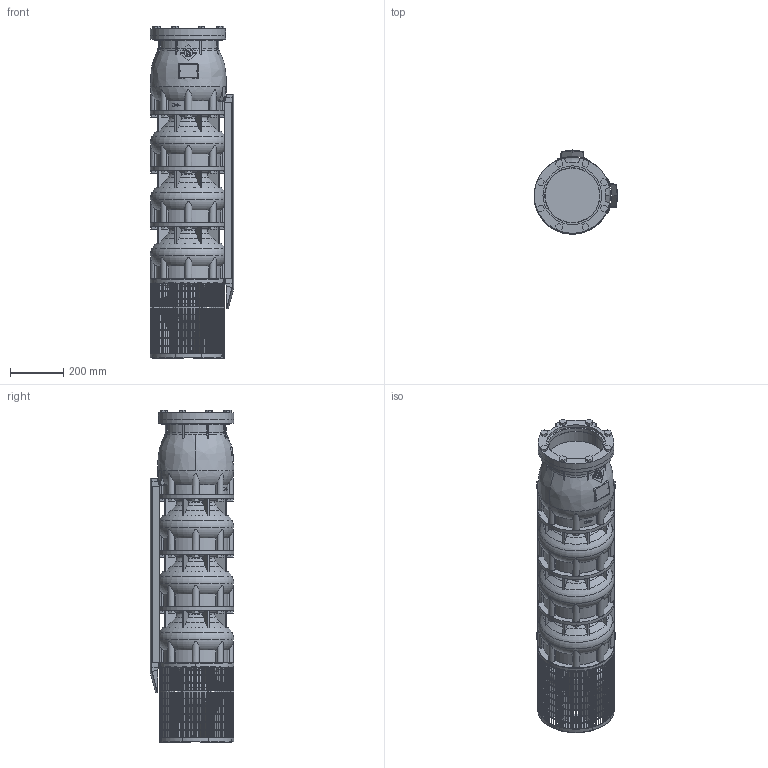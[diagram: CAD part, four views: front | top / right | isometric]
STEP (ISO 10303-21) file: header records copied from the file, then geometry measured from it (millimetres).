
FILE_DESCRIPTION(/* description */ ('-'),/* implementation_level */ '2;1');
FILE_NAME(/* name */ 'VSI344-3-2B_WF_M10-50_SLE',/* time_stamp */ '2026-01-21T11:43:52+01:00',/* author */ ('Simonelli M.'),/* organization */ ('Franklin Electric Srl'),/* preprocessor_version */ 'ST-DEVELOPER v18.102',/* originating_system */ 'Solid Edge',/* authorisation */ 'Unknown');
FILE_SCHEMA (('AUTOMOTIVE_DESIGN {1 0 10303 214 3 1 1}'));
Products named in the file (12): VSI344-3-2B_WF_M10-50_SLE; VSI344-454_testata; VSI344-454_supporto; VSI344-454_filtro_A; VSI344-454_filtro_B; VSI344-454_terminale_top_copricavo_medio; VSI344-454_terminale_bottom_copricavo_medio; MID 344-3; VSI344_diffusore; M5X8_UNI7687; VSI184-254_giunto_10×10; VSI344-454_flangia_testata
Assembly tree (27 placements, depth 2):
  VSI344-3-2B_WF_M10-50_SLE
    VSI344-454_testata
    VSI344-454_supporto
    VSI344-454_filtro_A
    VSI344-454_filtro_B
    VSI344-454_terminale_top_copricavo_medio  x2
    VSI344-454_terminale_bottom_copricavo_medio  x2
    MID 344-3  x2
    VSI344_diffusore  x3
    M5X8_UNI7687  x12
    VSI184-254_giunto_10×10
    VSI344-454_flangia_testata
Bounding box: 314.3 x 314.3 x 1245 mm (x, y, z)
Volume: 48559565.6 mm3; surface area: 3086481.3 mm2
Topology: 92 solids, 92 shells, 4304 faces, 12094 edges, 8032 vertices
Faces by surface type: plane 3467, cylinder 501, torus 220, cone 89, bspline 15, sphere 12
Full cylindrical faces by diameter (mm): 5 x12, 16 x8, 35 x1, 65 x1, 69 x1, 150 x1, 207 x1, 220.5 x1, 285 x3
Entity records: 124609 total; most frequent: CARTESIAN_POINT 28078, ORIENTED_EDGE 20264, DIRECTION 19372, EDGE_CURVE 10132, VERTEX_POINT 6757, AXIS2_PLACEMENT_3D 6544, LINE 6284, VECTOR 6284
